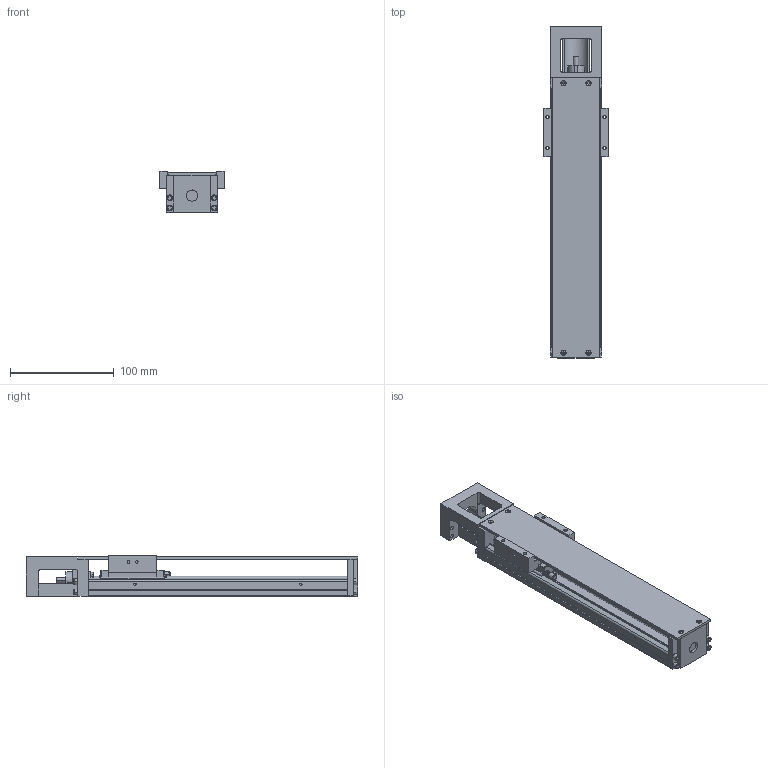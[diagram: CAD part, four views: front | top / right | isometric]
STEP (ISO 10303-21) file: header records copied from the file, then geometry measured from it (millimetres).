
FILE_DESCRIPTION(('no description'),'unknown implementation level');
FILE_NAME('KK5002P250A1F0C00_FILE_16.stp',' ',('HIWIN GmbH'),('CADClick - KiM GmbH - www.kimweb.de'),'unknown preprocess','ACIS','unknown authorization');
FILE_SCHEMA(('automotive_design'));
Length unit declared in the file: millimetre
Products named in the file (2): KK50_FILE; KK5002P250A1F0C00_FILE
Bounding box: 62 x 320 x 40 mm (x, y, z)
Volume: 298902.2 mm3; surface area: 114897.3 mm2
Topology: 2 solids, 14 shells, 830 faces, 2102 edges, 1329 vertices
Faces by surface type: plane 483, cylinder 239, cone 66, torus 42
Entity records: 48922 total; most frequent: CARTESIAN_POINT 4831, DIRECTION 4358, STYLED_ITEM 4229, PRESENTATION_STYLE_ASSIGNMENT 4229, COLOUR_RGB 4229, ORIENTED_EDGE 4136, EDGE_CURVE 2068, CURVE_STYLE 2068
